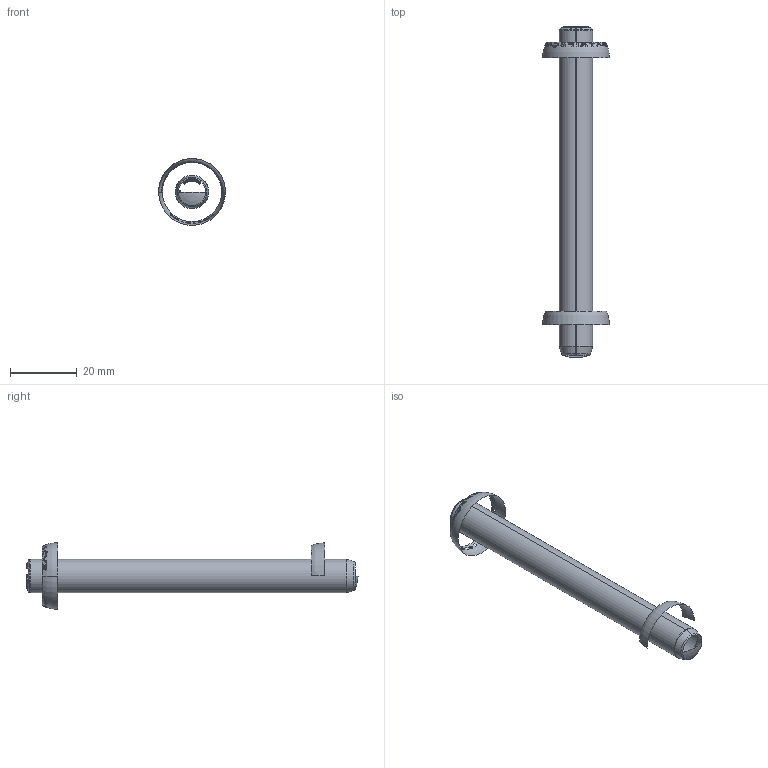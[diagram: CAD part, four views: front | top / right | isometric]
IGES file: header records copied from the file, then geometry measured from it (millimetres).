
Start section: SolidWorks IGES file using analytic representation for surfaces
Global section: file name: D:\Cleonir_arquivos\MT_15_07\Pinos Guia DIN 6325 ISO 8734 sem rosca\PG610100.igs; native system: SolidWorks 2013; preprocessor: SolidWorks 2013; author: Cleonir; date: 130718.161844; units: millimetre
Bounding box: 20 x 99.53 x 19.94 mm (x, y, z)
Surface area: 3583.3 mm2 (no closed solid volume)
Topology: 0 solids, 0 shells, 278 faces, 3219 edges, 3218 vertices
Faces by surface type: bspline 251, revolution 27
